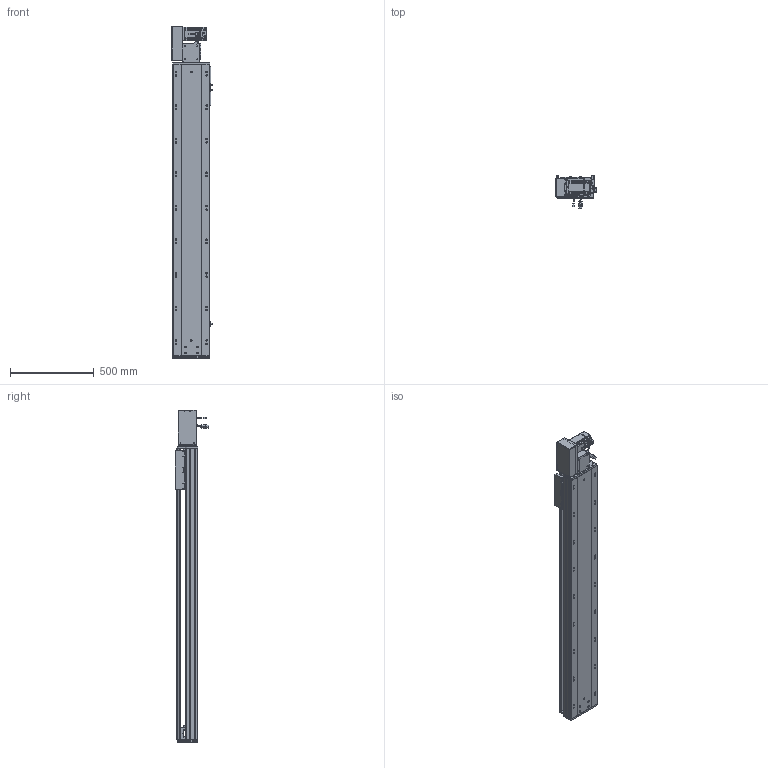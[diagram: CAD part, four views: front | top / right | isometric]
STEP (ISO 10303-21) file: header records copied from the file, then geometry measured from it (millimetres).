
FILE_DESCRIPTION (( 'STEP AP203' ), '1' );
FILE_NAME ('RY220-T-300-LK.SLDASM_1400.step', '2022-07-25T08:14:25', ( '' ), ( '' ), 'SwSTEP 2.0', 'SolidWorks 2016', '' );
FILE_SCHEMA (( 'CONFIG_CONTROL_DESIGN' ));
Length unit declared in the file: millimetre
Products named in the file (14): 覜茼ん672; RY220-T-蛌殏萇儂假蚾啣(750W); 怢湛750W_ECMA-CX0807ES; RY220-同步轮副支撑座6304×2; RY220翋肮祭謫裔啣; 110A-T-肮祭謫釱傷裔; 滅袉蝶18-15; RY220-T-湍謫欶(鍼踢); RY220-T菁釱-300_1400; RY220-俋离672覜茼んえ; RY220圉猾敕々湍臏賑輸; RY220-T-300-奻裔啣_1400; RY220-T-300-LK.SLDASM_1400; RY220翋肮祭謫釱
Assembly tree (18 placements, depth 2):
  RY220-T-300-LK.SLDASM_1400
    RY220-T菁釱-300_1400
    RY220翋肮祭謫釱
    覜茼ん672  x3
    RY220圉猾敕々湍臏賑輸
    RY220-T-300-奻裔啣_1400
    RY220-俋离672覜茼んえ
    滅袉蝶18-15  x3
    RY220翋肮祭謫裔啣  x2
    110A-T-肮祭謫釱傷裔
    怢湛750W_ECMA-CX0807ES
    RY220-T-湍謫欶(鍼踢)
    RY220-T-蛌殏萇儂假蚾啣(750W)
    RY220-同步轮副支撑座6304×2
Bounding box: 239.7 x 198.77 x 1979 mm (x, y, z)
Volume: 14851083.6 mm3; surface area: 4423492.7 mm2
Topology: 19 solids, 19 shells, 2700 faces, 7451 edges, 4714 vertices
Faces by surface type: cylinder 1276, plane 1069, cone 273, bspline 56, sphere 16, torus 10
Entity records: 89811 total; most frequent: CARTESIAN_POINT 25549, ORIENTED_EDGE 13338, DIRECTION 12660, EDGE_CURVE 6669, AXIS2_PLACEMENT_3D 4494, VERTEX_POINT 4338, VECTOR 3672, LINE 3672
